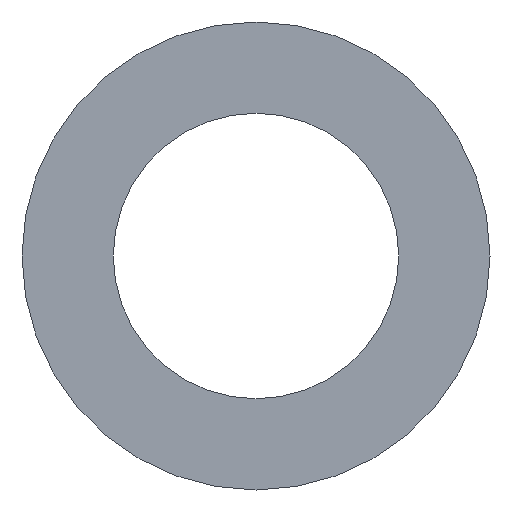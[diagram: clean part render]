
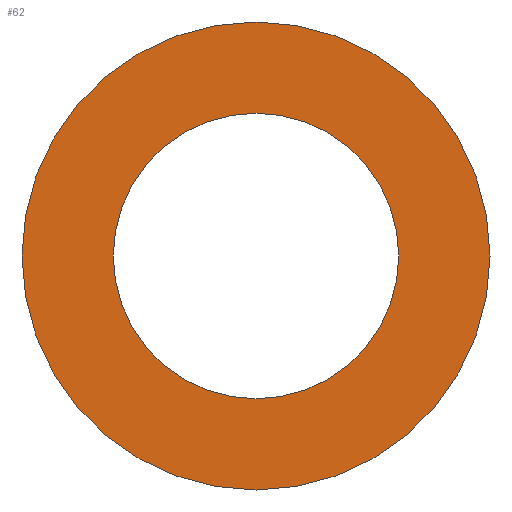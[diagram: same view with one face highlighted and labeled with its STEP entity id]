
A CAD part, front view. The second image highlights one B-rep face of the part: STEP entity #62.
In plain terms, the highlighted planar face has unit normal (0, -1, 0).
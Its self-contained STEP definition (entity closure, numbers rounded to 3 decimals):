
#20=PLANE('',#83);
#26=ORIENTED_EDGE('',*,*,#30,.T.);
#27=ORIENTED_EDGE('',*,*,#32,.F.);
#30=EDGE_CURVE('',#34,#34,#38,.T.);
#32=EDGE_CURVE('',#36,#36,#40,.T.);
#34=VERTEX_POINT('',#106);
#36=VERTEX_POINT('',#111);
#38=CIRCLE('',#78,66.5);
#40=CIRCLE('',#81,109.);
#46=EDGE_LOOP('',(#26));
#47=EDGE_LOOP('',(#27));
#54=FACE_BOUND('',#46,.T.);
#55=FACE_BOUND('',#47,.T.);
#62=ADVANCED_FACE('',(#54,#55),#20,.F.);
#78=AXIS2_PLACEMENT_3D('',#105,#89,#90);
#81=AXIS2_PLACEMENT_3D('',#110,#95,#96);
#83=AXIS2_PLACEMENT_3D('',#114,#99,#100);
#89=DIRECTION('',(0.,1.,0.));
#90=DIRECTION('',(1.,0.,0.));
#95=DIRECTION('',(0.,1.,0.));
#96=DIRECTION('',(1.,0.,0.));
#99=DIRECTION('',(0.,1.,0.));
#100=DIRECTION('',(0.,0.,1.));
#105=CARTESIAN_POINT('',(0.,-1.5,0.));
#106=CARTESIAN_POINT('',(66.5,-1.5,0.));
#110=CARTESIAN_POINT('',(0.,-1.5,0.));
#111=CARTESIAN_POINT('',(109.,-1.5,0.));
#114=CARTESIAN_POINT('',(0.,-1.5,0.));
